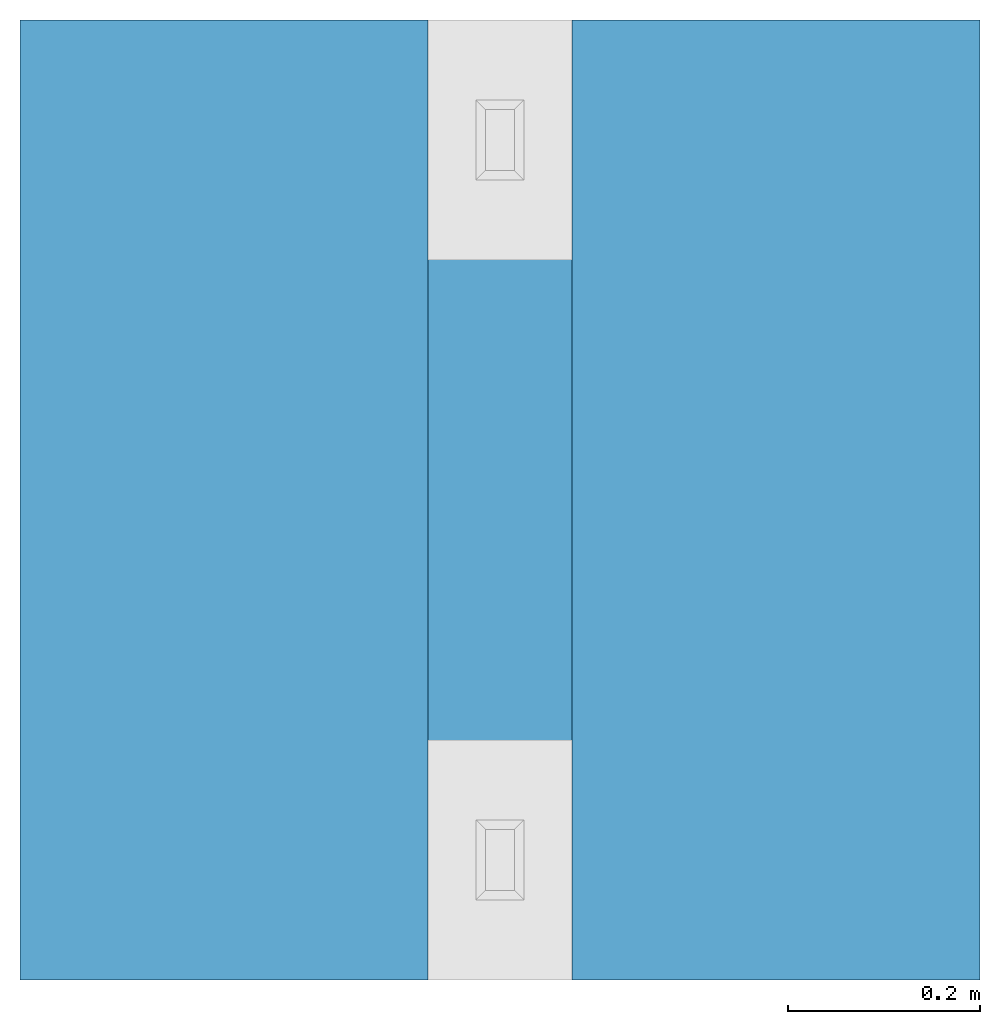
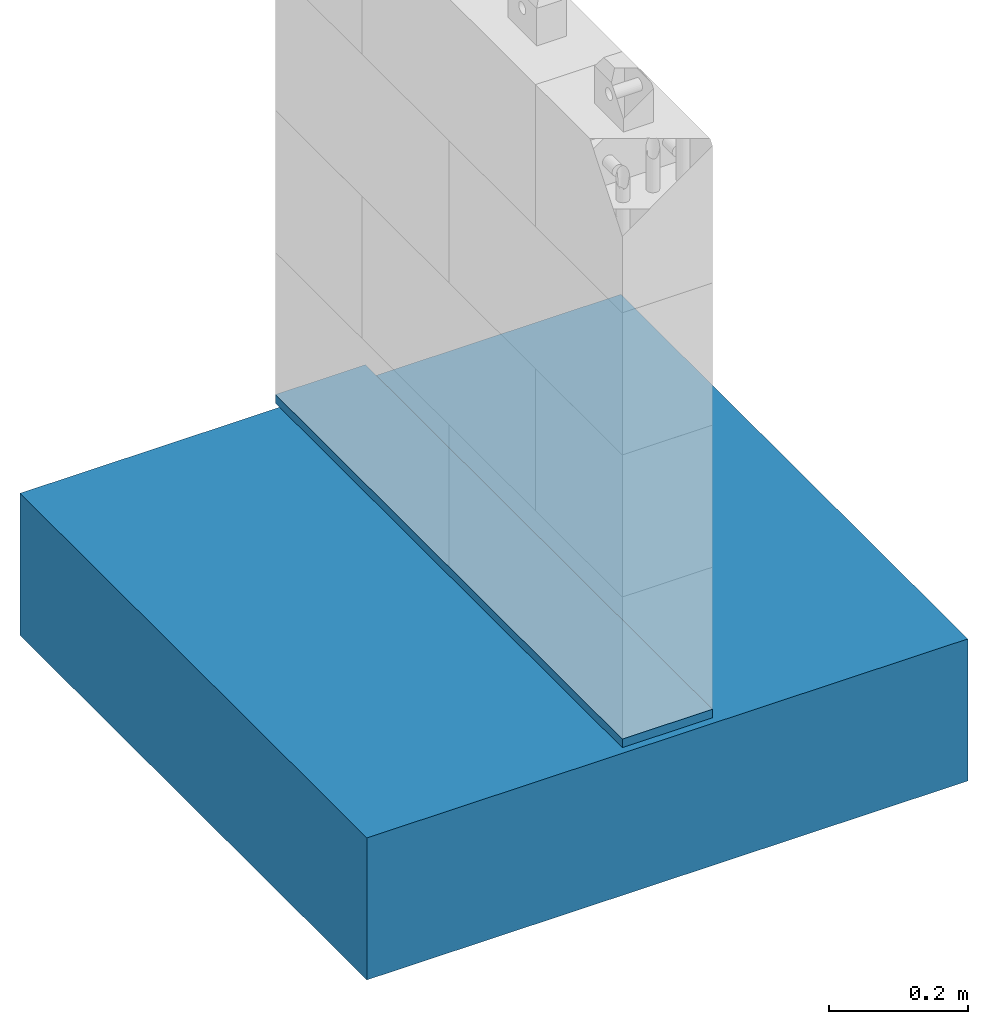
# One storey, incomplete: 1 beam, 1 building element part, 1 element without a shape of its own.
"""IFC4 building model written with IfcOpenShell, lengths in centimetres."""

from ifc_helpers import new_model, entity, si_unit, converted_unit, derived_unit, direction, frame, origin, place, context, subcontext, project, spatial, indexed_curve, outline, extrude, source, transform, mapped, material, type_object, type_shapes, element, aggregate, save


model = new_model("IFC4")

# Units and contexts
model_context = context("Model", 3, precision=0.001, world=origin(), true_north=direction((6.123031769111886e-17, 1.0)))
body_context = subcontext(model_context, "Body", "Model", "MODEL_VIEW")
ifc_project = project(units=[si_unit("LENGTHUNIT", "METRE", prefix="CENTI"), si_unit("AREAUNIT", "SQUARE_METRE"), si_unit("VOLUMEUNIT", "CUBIC_METRE"), converted_unit("PLANEANGLEUNIT", "DEGREE", entity("IfcPlaneAngleMeasure", 0.017453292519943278), si_unit("PLANEANGLEUNIT", "RADIAN"), dimensions=[0, 0, 0, 0, 0, 0, 0]), si_unit("MASSUNIT", "GRAM", prefix="KILO"), derived_unit("MASSDENSITYUNIT", [(si_unit("MASSUNIT", "GRAM", prefix="KILO"), 1), (si_unit("LENGTHUNIT", "METRE"), -3)]), derived_unit("IONCONCENTRATIONUNIT", [(si_unit("MASSUNIT", "GRAM", prefix="KILO"), 1), (si_unit("LENGTHUNIT", "METRE"), -3)]), derived_unit("MOMENTOFINERTIAUNIT", [(si_unit("LENGTHUNIT", "METRE"), 4)]), si_unit("TIMEUNIT", "SECOND"), si_unit("FREQUENCYUNIT", "HERTZ"), si_unit("THERMODYNAMICTEMPERATUREUNIT", "DEGREE_CELSIUS"), derived_unit("THERMALTRANSMITTANCEUNIT", [(si_unit("MASSUNIT", "GRAM", prefix="KILO"), 1), (si_unit("THERMODYNAMICTEMPERATUREUNIT", "KELVIN"), -1), (si_unit("TIMEUNIT", "SECOND"), -3)]), derived_unit("THERMALCONDUCTANCEUNIT", [(si_unit("MASSUNIT", "GRAM", prefix="KILO"), 1), (si_unit("THERMODYNAMICTEMPERATUREUNIT", "KELVIN"), -1), (si_unit("TIMEUNIT", "SECOND"), -3), (si_unit("LENGTHUNIT", "METRE"), 1)]), derived_unit("VOLUMETRICFLOWRATEUNIT", [(si_unit("LENGTHUNIT", "METRE", prefix="DECI"), 3), (si_unit("TIMEUNIT", "SECOND"), -1)]), derived_unit("MASSFLOWRATEUNIT", [(si_unit("MASSUNIT", "GRAM", prefix="KILO"), 1), (si_unit("TIMEUNIT", "SECOND"), -1)]), derived_unit("ROTATIONALFREQUENCYUNIT", [(si_unit("TIMEUNIT", "SECOND"), -1)]), si_unit("ELECTRICCURRENTUNIT", "AMPERE"), si_unit("ELECTRICVOLTAGEUNIT", "VOLT"), si_unit("POWERUNIT", "WATT"), si_unit("FORCEUNIT", "NEWTON", prefix="KILO"), si_unit("ILLUMINANCEUNIT", "LUX"), si_unit("LUMINOUSFLUXUNIT", "LUMEN"), si_unit("LUMINOUSINTENSITYUNIT", "CANDELA"), si_unit("ENERGYUNIT", "JOULE"), derived_unit("USERDEFINED", [(si_unit("MASSUNIT", "GRAM", prefix="KILO"), -1), (si_unit("LENGTHUNIT", "METRE"), -2), (si_unit("TIMEUNIT", "SECOND"), 3), (si_unit("LUMINOUSFLUXUNIT", "LUMEN"), 1)]), derived_unit("USERDEFINED", [(si_unit("MASSUNIT", "GRAM", prefix="KILO"), 1), (si_unit("TIMEUNIT", "SECOND"), -3), (si_unit("LENGTHUNIT", "METRE"), 3), (si_unit("ELECTRICCURRENTUNIT", "AMPERE"), -2)]), derived_unit("SOUNDPOWERUNIT", [(si_unit("MASSUNIT", "GRAM", prefix="KILO"), 1), (si_unit("TIMEUNIT", "SECOND"), -3), (si_unit("LENGTHUNIT", "METRE"), 2)]), derived_unit("SOUNDPRESSUREUNIT", [(si_unit("MASSUNIT", "GRAM", prefix="KILO"), 1), (si_unit("LENGTHUNIT", "METRE"), -1), (si_unit("TIMEUNIT", "SECOND"), -2)]), derived_unit("LINEARVELOCITYUNIT", [(si_unit("LENGTHUNIT", "METRE"), 1), (si_unit("TIMEUNIT", "SECOND"), -1)]), si_unit("PRESSUREUNIT", "PASCAL"), derived_unit("USERDEFINED", [(si_unit("MASSUNIT", "GRAM", prefix="KILO"), 1), (si_unit("LENGTHUNIT", "METRE"), -2), (si_unit("TIMEUNIT", "SECOND"), -2)]), derived_unit("LINEARFORCEUNIT", [(si_unit("MASSUNIT", "GRAM", prefix="KILO"), 1), (si_unit("TIMEUNIT", "SECOND"), -2)]), derived_unit("PLANARFORCEUNIT", [(si_unit("MASSUNIT", "GRAM", prefix="KILO"), 1), (si_unit("LENGTHUNIT", "METRE"), -1), (si_unit("TIMEUNIT", "SECOND"), -2)]), derived_unit("SPECIFICHEATCAPACITYUNIT", [(si_unit("THERMODYNAMICTEMPERATUREUNIT", "KELVIN"), -1), (si_unit("LENGTHUNIT", "METRE"), 2), (si_unit("TIMEUNIT", "SECOND"), -2)]), derived_unit("HEATFLUXDENSITYUNIT", [(si_unit("MASSUNIT", "GRAM", prefix="KILO"), 1), (si_unit("TIMEUNIT", "SECOND"), -3)]), derived_unit("HEATINGVALUEUNIT", [(si_unit("LENGTHUNIT", "METRE"), 2), (si_unit("TIMEUNIT", "SECOND"), -2)]), derived_unit("VAPORPERMEABILITYUNIT", [(si_unit("LENGTHUNIT", "METRE"), -1), (si_unit("TIMEUNIT", "SECOND"), 1)]), derived_unit("DYNAMICVISCOSITYUNIT", [(si_unit("MASSUNIT", "GRAM", prefix="KILO"), 1), (si_unit("TIMEUNIT", "SECOND"), -1), (si_unit("LENGTHUNIT", "METRE"), -1)]), derived_unit("THERMALEXPANSIONCOEFFICIENTUNIT", [(si_unit("THERMODYNAMICTEMPERATUREUNIT", "KELVIN"), -1)]), derived_unit("MODULUSOFELASTICITYUNIT", [(si_unit("MASSUNIT", "GRAM", prefix="KILO"), 1), (si_unit("LENGTHUNIT", "METRE"), -1), (si_unit("TIMEUNIT", "SECOND"), -2)]), derived_unit("ISOTHERMALMOISTURECAPACITYUNIT", [(si_unit("MASSUNIT", "GRAM", prefix="KILO"), -1), (si_unit("LENGTHUNIT", "METRE"), 3)]), derived_unit("MOISTUREDIFFUSIVITYUNIT", [(si_unit("TIMEUNIT", "SECOND"), -1), (si_unit("LENGTHUNIT", "METRE"), 2)]), derived_unit("AREADENSITYUNIT", [(si_unit("MASSUNIT", "GRAM", prefix="KILO"), 1), (si_unit("LENGTHUNIT", "METRE"), 2)]), derived_unit("MASSPERLENGTHUNIT", [(si_unit("MASSUNIT", "GRAM", prefix="KILO"), 1), (si_unit("LENGTHUNIT", "METRE"), -1)]), derived_unit("THERMALRESISTANCEUNIT", [(si_unit("MASSUNIT", "GRAM", prefix="KILO"), -1), (si_unit("TIMEUNIT", "SECOND"), 3), (si_unit("THERMODYNAMICTEMPERATUREUNIT", "KELVIN"), 1)]), derived_unit("ACCELERATIONUNIT", [(si_unit("LENGTHUNIT", "METRE"), 1), (si_unit("TIMEUNIT", "SECOND"), -2)]), derived_unit("ANGULARVELOCITYUNIT", [(si_unit("TIMEUNIT", "SECOND"), -1), (si_unit("PLANEANGLEUNIT", "RADIAN"), 1)]), derived_unit("LINEARSTIFFNESSUNIT", [(si_unit("MASSUNIT", "GRAM", prefix="KILO"), 1), (si_unit("TIMEUNIT", "SECOND"), -2)]), derived_unit("WARPINGCONSTANTUNIT", [(si_unit("LENGTHUNIT", "METRE"), 6)]), derived_unit("LINEARMOMENTUNIT", [(si_unit("MASSUNIT", "GRAM", prefix="KILO"), 1), (si_unit("LENGTHUNIT", "METRE"), 1), (si_unit("TIMEUNIT", "SECOND"), -2)]), derived_unit("TORQUEUNIT", [(si_unit("MASSUNIT", "GRAM", prefix="KILO"), 1), (si_unit("LENGTHUNIT", "METRE"), 2), (si_unit("TIMEUNIT", "SECOND"), -2)])], contexts=[model_context])

# Site, building, storey
site_placement = place(None, origin())
site = spatial("IfcSite", under=ifc_project, at=site_placement, Name="Default", CompositionType="ELEMENT")
building_placement = place(site_placement, origin())
building = spatial("IfcBuilding", under=site, at=building_placement, CompositionType="ELEMENT")
storey_placement = place(building_placement, frame((0.0, 0.0, -12.0)))
storey = spatial("IfcBuildingStorey", under=building, at=storey_placement, Name="L00__ABOVE Slab", CompositionType="ELEMENT", Elevation=-12.000000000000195)

# Beam
ifc_material_1 = material(Name="_STRUCTURE__Wood")
beam_type = type_object("IfcBeamType", Name="Structural Framing : sfr__WOOD__Rectangular__sf : 15 x 1cm", PredefinedType="BEAM", material=ifc_material_1)
shared_shape = source(origin(), body_context, "Body", "SweptSolid", [
    extrude(outline(indexed_curve([(-0.7499999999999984, -7.500000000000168), (0.7499999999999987, -7.500000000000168), (0.7499999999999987, 7.500000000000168), (-0.7499999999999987, 7.500000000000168), (-0.7499999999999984, -7.500000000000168)], self_intersect=False)), frame((-50.0, 0.0, 0.0), z_axis=(1.0, 0.0, 0.0), x_axis=(0.0, 0.0, -1.0)), (0.0, 0.0, 1.0), 99.99999999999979),
])
type_shapes(beam_type, [shared_shape])
beam_placement = place(storey_placement, frame((1425.6494566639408, 1205.371873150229, 9.25), z_axis=(0.0, 0.0, 1.0), x_axis=(0.0, -1.0, 0.0)))
element("IfcBeam", 1, at=beam_placement, inside=storey, type_object=beam_type, material=ifc_material_1, Name="Structural Framing : sfr__WOOD__Rectangular__sf : 15 x 1cm", ObjectType="sfr__WOOD__Rectangular__sf:15 x 1cm", PredefinedType="BEAM", context=body_context, shape_type="MappedRepresentation", body=[
    mapped(shared_shape, transform((0.0, 0.0, 0.0), scale=1.0)),
])

# Slab, building element part
slab_type = type_object("IfcSlabType", Name="Floors : Floor : flr__STRUCTURE__Reinforced Concrete 25cm", PredefinedType="FLOOR")
slab_placement = place(storey_placement, origin())
slab = element("IfcSlab", 2, at=slab_placement, inside=storey, type_object=slab_type, Name="Floors : Floor : flr__STRUCTURE__Reinforced Concrete 25cm", ObjectType="Floor:flr__STRUCTURE__Reinforced Concrete 25cm", PredefinedType="FLOOR")
ifc_material_2 = material(Name="_STRUCTURE__Reinforced Concrete")
building_element_part_placement = place(slab_placement, origin())
building_element_part = element("IfcBuildingElementPart", 3, at=building_element_part_placement, material=ifc_material_2, Name="_STRUCTURE__Reinforced Concrete", context=body_context, shape_type="SweptSolid", body=[
    extrude(outline(indexed_curve([(-49.99999999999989, -50.000000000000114), (50.000000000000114, -50.000000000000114), (50.000000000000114, 50.000000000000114), (-49.99999999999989, 50.000000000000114), (-49.99999999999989, -50.000000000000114)], self_intersect=False)), frame((1425.6494566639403, 1205.371873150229, -17.5), z_axis=(0.0, 0.0, 1.0), x_axis=(0.0, -1.0, 0.0)), (0.0, 0.0, 1.0), 25.0),
])
aggregate(slab, [building_element_part])

save(model, "model.ifc")
